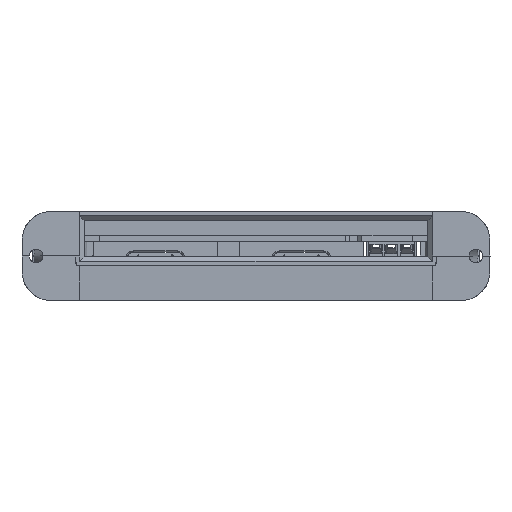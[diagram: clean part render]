
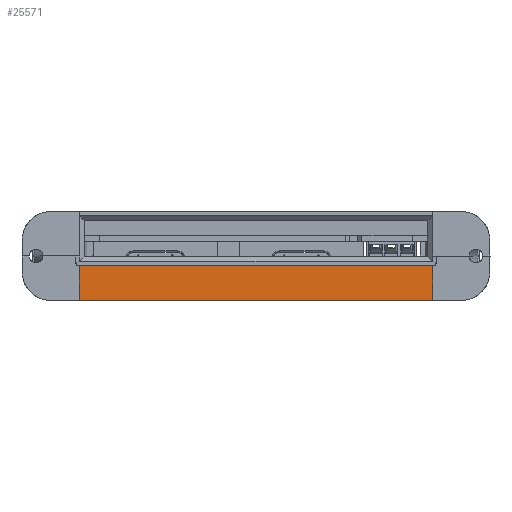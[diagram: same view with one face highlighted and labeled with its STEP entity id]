
A CAD part, left-side view. The second image highlights one B-rep face of the part: STEP entity #25571.
In plain terms, the highlighted planar face has unit normal (-1, 0, -0.018).
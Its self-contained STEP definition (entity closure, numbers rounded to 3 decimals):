
#1528 = LINE ( 'NONE', #39951, #36270 ) ;
#2064 = LINE ( 'NONE', #49758, #48837 ) ;
#3558 = ORIENTED_EDGE ( 'NONE', *, *, #12874, .T. ) ;
#4528 = CARTESIAN_POINT ( 'NONE',  ( -9.164, 18.8, 8.6 ) ) ;
#5441 = FACE_OUTER_BOUND ( 'NONE', #40896, .T. ) ;
#5979 = LINE ( 'NONE', #38068, #51349 ) ;
#9451 = CARTESIAN_POINT ( 'NONE',  ( -9.206, -80., 11. ) ) ;
#10070 = VERTEX_POINT ( 'NONE', #4528 ) ;
#12874 = EDGE_CURVE ( 'NONE', #58058, #28186, #5979, .T. ) ;
#13985 = DIRECTION ( 'NONE',  ( 0.017, 0., -1. ) ) ;
#14624 = EDGE_CURVE ( 'NONE', #58058, #10070, #2064, .T. ) ;
#17322 = DIRECTION ( 'NONE',  ( 0., 1., 0. ) ) ;
#23625 = VERTEX_POINT ( 'NONE', #32686 ) ;
#25571 = ADVANCED_FACE ( 'NONE', ( #5441 ), #50089, .T. ) ;
#26158 = ORIENTED_EDGE ( 'NONE', *, *, #47190, .T. ) ;
#28186 = VERTEX_POINT ( 'NONE', #50496 ) ;
#29078 = ORIENTED_EDGE ( 'NONE', *, *, #42108, .T. ) ;
#30041 = CARTESIAN_POINT ( 'NONE',  ( -9.014, 18.8, 0. ) ) ;
#30614 = AXIS2_PLACEMENT_3D ( 'NONE', #9451, #41217, #13985 ) ;
#31746 = DIRECTION ( 'NONE',  ( -0.017, 0., 1. ) ) ;
#32686 = CARTESIAN_POINT ( 'NONE',  ( -9.164, -68.8, 8.6 ) ) ;
#34525 = CARTESIAN_POINT ( 'NONE',  ( -9.206, -68.8, 11. ) ) ;
#34707 = DIRECTION ( 'NONE',  ( -0.017, 0., 1. ) ) ;
#36270 = VECTOR ( 'NONE', #17322, 1000. ) ;
#38068 = CARTESIAN_POINT ( 'NONE',  ( -9.014, 30., 0. ) ) ;
#39951 = CARTESIAN_POINT ( 'NONE',  ( -9.164, -80., 8.6 ) ) ;
#40896 = EDGE_LOOP ( 'NONE', ( #3558, #29078, #26158, #41926 ) ) ;
#41217 = DIRECTION ( 'NONE',  ( -1., 0., -0.017 ) ) ;
#41926 = ORIENTED_EDGE ( 'NONE', *, *, #14624, .F. ) ;
#42108 = EDGE_CURVE ( 'NONE', #28186, #23625, #58355, .T. ) ;
#42626 = DIRECTION ( 'NONE',  ( 0., -1., 0. ) ) ;
#46338 = VECTOR ( 'NONE', #34707, 1000. ) ;
#47190 = EDGE_CURVE ( 'NONE', #23625, #10070, #1528, .T. ) ;
#48837 = VECTOR ( 'NONE', #31746, 1000. ) ;
#49758 = CARTESIAN_POINT ( 'NONE',  ( -9.206, 18.8, 11. ) ) ;
#50089 = PLANE ( 'NONE',  #30614 ) ;
#50496 = CARTESIAN_POINT ( 'NONE',  ( -9.014, -68.8, 0. ) ) ;
#51349 = VECTOR ( 'NONE', #42626, 1000. ) ;
#58058 = VERTEX_POINT ( 'NONE', #30041 ) ;
#58355 = LINE ( 'NONE', #34525, #46338 ) ;
